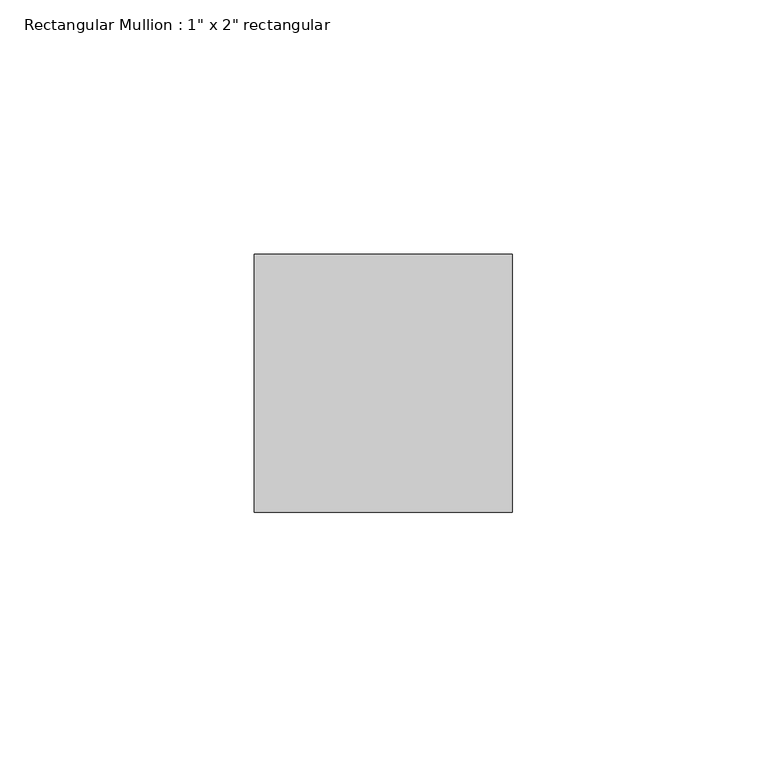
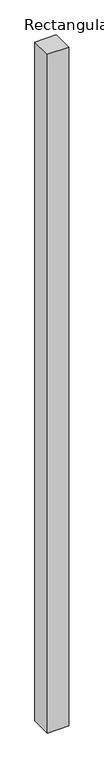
"""IFC4 building model written with IfcOpenShell, lengths in millimetres: member geometry."""

from ifc_helpers import new_model, si_unit, frame, origin, place, context, project, spatial, polyline, outline, extrude, source, transform, mapped, element, save


def member_94745b14(model_context):
    return source(origin(), model_context, "Body", "SweptSolid", [
        extrude(outline(polyline([(0.0, 25.4), (0.0, -25.4), (-50.8, -25.4), (-50.8, 25.4), (0.0, 25.4)])), frame((0.0, 0.0, -1688.4795905), z_axis=(0.0, 0.0, 1.0), x_axis=(1.0, 0.0, 0.0)), (0.0, 0.0, 1.0), 1688.4795905),
    ])


if __name__ == "__main__":
    model = new_model("IFC4")
    model_context = context("Model", 3, world=origin())
    ifc_project = project(units=[si_unit("LENGTHUNIT", "METRE", prefix="MILLI")], contexts=[model_context])
    site = spatial("IfcSite", under=ifc_project)
    building = spatial("IfcBuilding", under=site)
    placement = place(None, origin())
    member_shape = member_94745b14(model_context)
    element("IfcMember", 1, ObjectType="Rectangular Mullion : 1\" x 2\" rectangular", at=placement, inside=building, context=model_context, shape_type="MappedRepresentation", body=[
        mapped(member_shape, transform((0.0, 0.0, 0.0), x_axis=(1.0, 0.0, 0.0), y_axis=(0.0, 1.0, 0.0), z_axis=(0.0, 0.0, 1.0))),
    ])
    save(model, "model.ifc")
